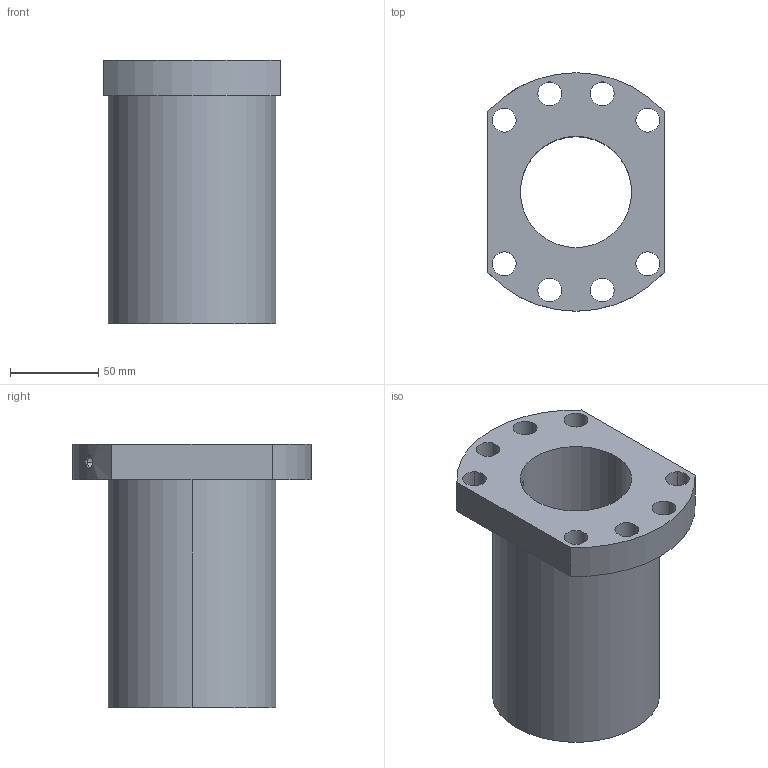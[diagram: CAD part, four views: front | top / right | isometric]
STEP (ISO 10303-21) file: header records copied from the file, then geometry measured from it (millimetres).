
FILE_DESCRIPTION(('STEP AP214'),'1');
FILE_NAME('cgr6320sfud9_525149-.stp','2025-04-29T07:57:46',('TraceParts'),('TraceParts S.A.'),'Spatial InterOp 3D',' ',' ');
FILE_SCHEMA(('AUTOMOTIVE_DESIGN { 1 0 10303 214 1 1 1 1 }'));
Length unit declared in the file: millimetre
Products named in the file (1): cgr6320sfud9_525149-
Bounding box: 100 x 135 x 149 mm (x, y, z)
Volume: 669027.7 mm3; surface area: 99177.5 mm2
Topology: 1 solids, 1 shells, 42 faces, 104 edges, 66 vertices
Faces by surface type: cylinder 30, cone 6, plane 6
Entity records: 1782 total; most frequent: CARTESIAN_POINT 345, DIRECTION 244, ORIENTED_EDGE 208, EDGE_CURVE 104, AXIS2_PLACEMENT_3D 101, VERTEX_POINT 66, EDGE_LOOP 64, CIRCLE 58
